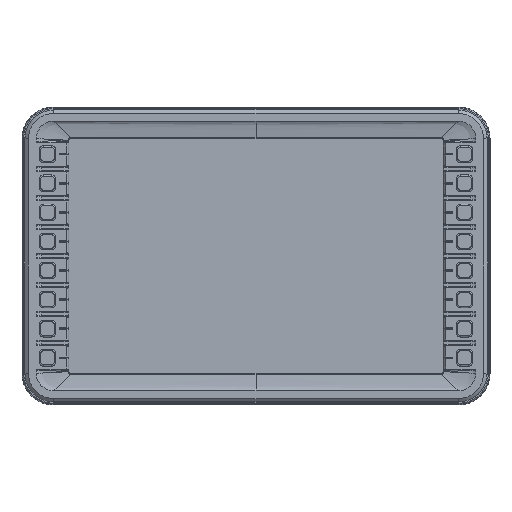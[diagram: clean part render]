
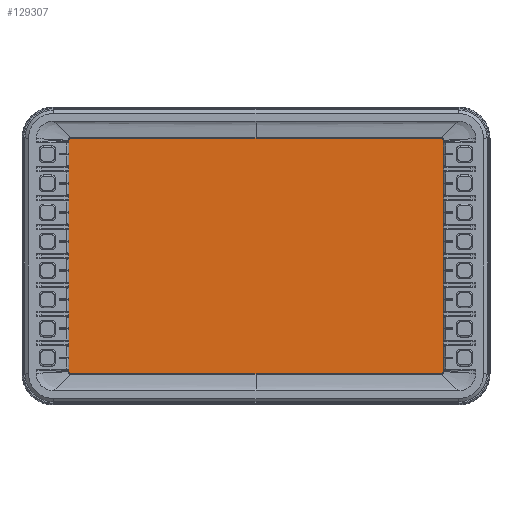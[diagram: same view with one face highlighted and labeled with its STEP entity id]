
A CAD part, top view. The second image highlights one B-rep face of the part: STEP entity #129307.
In plain terms, the highlighted planar face has unit normal (0, 0, 1).
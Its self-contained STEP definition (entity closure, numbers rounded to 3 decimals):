
#1969 = ORIENTED_EDGE ( 'NONE', *, *, #122836, .T. ) ;
#10508 = PLANE ( 'NONE',  #111242 ) ;
#11185 = DIRECTION ( 'NONE',  ( 0., 0., -1. ) ) ;
#12040 = DIRECTION ( 'NONE',  ( -1., 0., 0. ) ) ;
#13650 = VERTEX_POINT ( 'NONE', #71912 ) ;
#15547 = VERTEX_POINT ( 'NONE', #100594 ) ;
#16165 = CARTESIAN_POINT ( 'NONE',  ( -132.06, 83.1, 4.4 ) ) ;
#16334 = CARTESIAN_POINT ( 'NONE',  ( -130.56, -81.6, 4.4 ) ) ;
#16690 = LINE ( 'NONE', #104304, #148186 ) ;
#17290 = CARTESIAN_POINT ( 'NONE',  ( 130.56, 81.6, 4.4 ) ) ;
#17865 = DIRECTION ( 'NONE',  ( 0., 0., -1. ) ) ;
#18098 = ORIENTED_EDGE ( 'NONE', *, *, #48246, .F. ) ;
#18877 = VERTEX_POINT ( 'NONE', #41469 ) ;
#19872 = VERTEX_POINT ( 'NONE', #122471 ) ;
#23738 = CARTESIAN_POINT ( 'NONE',  ( 142.95, -82.95, 4.4 ) ) ;
#25224 = CIRCLE ( 'NONE', #157213, 1.5 ) ;
#28320 = EDGE_CURVE ( 'NONE', #117457, #63329, #120422, .T. ) ;
#30808 = EDGE_CURVE ( 'NONE', #15547, #19872, #157987, .T. ) ;
#31887 = CARTESIAN_POINT ( 'NONE',  ( 132.06, -83.1, 4.4 ) ) ;
#35012 = ORIENTED_EDGE ( 'NONE', *, *, #30808, .F. ) ;
#37619 = EDGE_CURVE ( 'NONE', #18877, #74802, #98052, .T. ) ;
#38452 = CARTESIAN_POINT ( 'NONE',  ( -130.56, 81.6, 4.4 ) ) ;
#41469 = CARTESIAN_POINT ( 'NONE',  ( 130.56, 83.1, 4.4 ) ) ;
#42815 = DIRECTION ( 'NONE',  ( 0., 0., -1. ) ) ;
#42964 = DIRECTION ( 'NONE',  ( 0., 0., -1. ) ) ;
#48246 = EDGE_CURVE ( 'NONE', #18877, #13650, #98365, .T. ) ;
#53599 = DIRECTION ( 'NONE',  ( 1., 0., 0. ) ) ;
#60382 = CARTESIAN_POINT ( 'NONE',  ( 132.06, -81.6, 4.4 ) ) ;
#60560 = VECTOR ( 'NONE', #12040, 1000. ) ;
#63329 = VERTEX_POINT ( 'NONE', #88395 ) ;
#68648 = ORIENTED_EDGE ( 'NONE', *, *, #37619, .T. ) ;
#71912 = CARTESIAN_POINT ( 'NONE',  ( 132.06, 81.6, 4.4 ) ) ;
#72527 = FACE_OUTER_BOUND ( 'NONE', #135713, .T. ) ;
#74802 = VERTEX_POINT ( 'NONE', #97101 ) ;
#75225 = CARTESIAN_POINT ( 'NONE',  ( -132.06, 81.6, 4.4 ) ) ;
#82294 = DIRECTION ( 'NONE',  ( 0., 1., 0. ) ) ;
#85863 = VECTOR ( 'NONE', #82294, 1000. ) ;
#88395 = CARTESIAN_POINT ( 'NONE',  ( 130.56, -83.1, 4.4 ) ) ;
#88940 = DIRECTION ( 'NONE',  ( 0., -1., 0. ) ) ;
#90322 = ORIENTED_EDGE ( 'NONE', *, *, #160832, .T. ) ;
#94395 = DIRECTION ( 'NONE',  ( 1., 0., 0. ) ) ;
#97101 = CARTESIAN_POINT ( 'NONE',  ( -130.56, 83.1, 4.4 ) ) ;
#98052 = LINE ( 'NONE', #133689, #60560 ) ;
#98365 = CIRCLE ( 'NONE', #114152, 1.5 ) ;
#100594 = CARTESIAN_POINT ( 'NONE',  ( -130.56, -83.1, 4.4 ) ) ;
#104095 = DIRECTION ( 'NONE',  ( 1., 0., 0. ) ) ;
#104304 = CARTESIAN_POINT ( 'NONE',  ( -132.06, -83.1, 4.4 ) ) ;
#108921 = DIRECTION ( 'NONE',  ( 1., 0., 0. ) ) ;
#109726 = DIRECTION ( 'NONE',  ( 0., 0., 1. ) ) ;
#111242 = AXIS2_PLACEMENT_3D ( 'NONE', #23738, #109726, #108921 ) ;
#114152 = AXIS2_PLACEMENT_3D ( 'NONE', #17290, #42964, #104095 ) ;
#115362 = LINE ( 'NONE', #16165, #120174 ) ;
#117457 = VERTEX_POINT ( 'NONE', #60382 ) ;
#117868 = ORIENTED_EDGE ( 'NONE', *, *, #137249, .F. ) ;
#117899 = DIRECTION ( 'NONE',  ( 1., 0., 0. ) ) ;
#118504 = VERTEX_POINT ( 'NONE', #75225 ) ;
#120174 = VECTOR ( 'NONE', #88940, 1000. ) ;
#120422 = CIRCLE ( 'NONE', #152187, 1.5 ) ;
#122471 = CARTESIAN_POINT ( 'NONE',  ( -132.06, -81.6, 4.4 ) ) ;
#122836 = EDGE_CURVE ( 'NONE', #15547, #63329, #16690, .T. ) ;
#128924 = AXIS2_PLACEMENT_3D ( 'NONE', #16334, #42815, #53599 ) ;
#129307 = ADVANCED_FACE ( 'NONE', ( #72527 ), #10508, .T. ) ;
#133603 = CARTESIAN_POINT ( 'NONE',  ( 130.56, -81.6, 4.4 ) ) ;
#133689 = CARTESIAN_POINT ( 'NONE',  ( 132.06, 83.1, 4.4 ) ) ;
#134865 = EDGE_CURVE ( 'NONE', #117457, #13650, #145164, .T. ) ;
#135713 = EDGE_LOOP ( 'NONE', ( #138404, #157309, #18098, #68648, #117868, #90322, #35012, #1969 ) ) ;
#137249 = EDGE_CURVE ( 'NONE', #118504, #74802, #25224, .T. ) ;
#138404 = ORIENTED_EDGE ( 'NONE', *, *, #28320, .F. ) ;
#145164 = LINE ( 'NONE', #31887, #85863 ) ;
#148186 = VECTOR ( 'NONE', #94395, 1000. ) ;
#151721 = DIRECTION ( 'NONE',  ( 1., 0., 0. ) ) ;
#152187 = AXIS2_PLACEMENT_3D ( 'NONE', #133603, #17865, #117899 ) ;
#157213 = AXIS2_PLACEMENT_3D ( 'NONE', #38452, #11185, #151721 ) ;
#157309 = ORIENTED_EDGE ( 'NONE', *, *, #134865, .T. ) ;
#157987 = CIRCLE ( 'NONE', #128924, 1.5 ) ;
#160832 = EDGE_CURVE ( 'NONE', #118504, #19872, #115362, .T. ) ;
